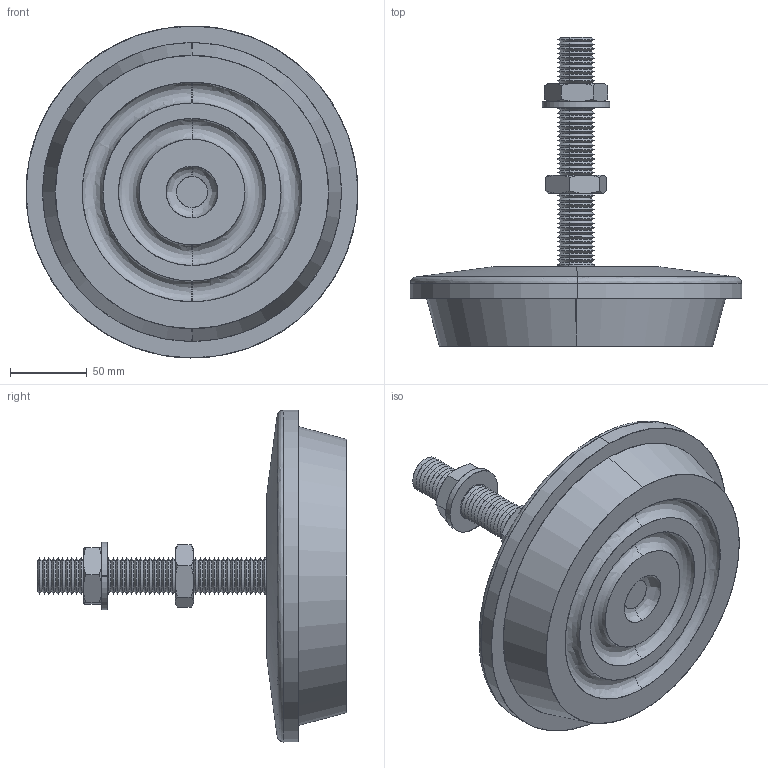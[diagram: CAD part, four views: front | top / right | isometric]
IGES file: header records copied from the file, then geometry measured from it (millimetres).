
Start section: SolidWorks IGES file using analytic representation for surfaces
Global section: file name: C:\Documents and Settings\IANO\Desktop\Temp File\Process pending\EXISTING\34930_v2\34930_v2_20170626_IGES\34930.W0617.igs; native system: SolidWorks 2009; preprocessor: SolidWorks 2009; author: IANO; date: 170626.131603; units: millimetre
Bounding box: 216.99 x 202 x 216.99 mm (x, y, z)
Surface area: 192757.1 mm2 (no closed solid volume)
Topology: 0 solids, 0 shells, 288 faces, 2762 edges, 2762 vertices
Faces by surface type: revolution 253, bspline 35
